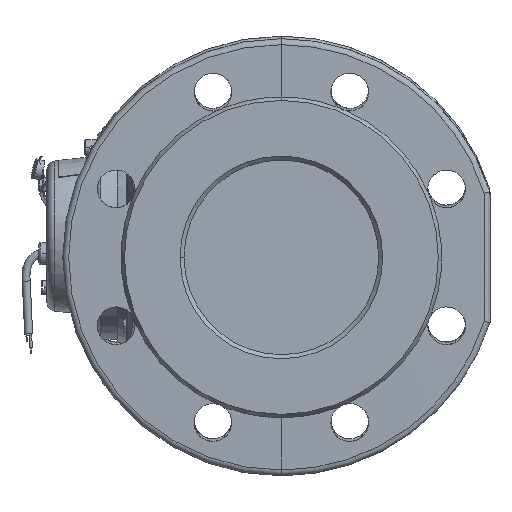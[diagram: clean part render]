
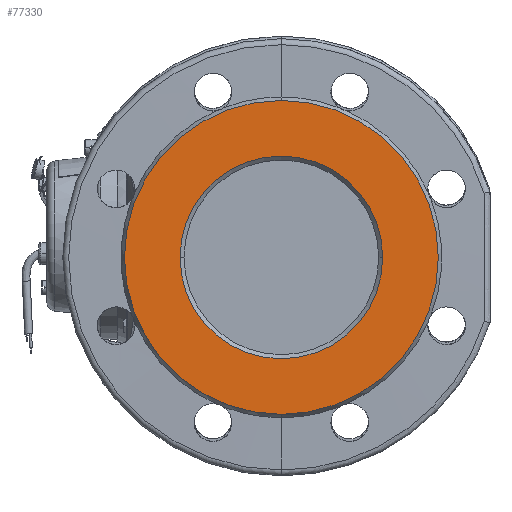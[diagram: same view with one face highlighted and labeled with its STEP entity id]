
A CAD part, left-side view. The second image highlights one B-rep face of the part: STEP entity #77330.
In plain terms, the highlighted planar face has unit normal (-1, 0, -0.006).
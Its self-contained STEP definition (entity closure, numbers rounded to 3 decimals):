
#2461 = AXIS2_PLACEMENT_3D ( 'NONE', #52791, #17997, #32042 ) ;
#5824 = CARTESIAN_POINT ( 'NONE',  ( 37.832, 98.683, 75.969 ) ) ;
#9016 = VERTEX_POINT ( 'NONE', #69503 ) ;
#13227 = AXIS2_PLACEMENT_3D ( 'NONE', #32094, #85331, #59575 ) ;
#16811 = DIRECTION ( 'NONE',  ( 0.006, 0., -1. ) ) ;
#17217 = CARTESIAN_POINT ( 'NONE',  ( 38.275, 47.683, -3.03 ) ) ;
#17493 = EDGE_CURVE ( 'NONE', #65840, #9016, #65825, .T. ) ;
#17691 = PLANE ( 'NONE',  #55491 ) ;
#17997 = DIRECTION ( 'NONE',  ( 1., 0., 0.006 ) ) ;
#18929 = AXIS2_PLACEMENT_3D ( 'NONE', #40742, #63215, #35293 ) ;
#19612 = VERTEX_POINT ( 'NONE', #5824 ) ;
#20807 = DIRECTION ( 'NONE',  ( 0.006, 0., -1. ) ) ;
#23790 = ORIENTED_EDGE ( 'NONE', *, *, #26450, .F. ) ;
#23867 = CARTESIAN_POINT ( 'NONE',  ( 38.718, 98.683, -82.028 ) ) ;
#24087 = ORIENTED_EDGE ( 'NONE', *, *, #17493, .T. ) ;
#26450 = EDGE_CURVE ( 'NONE', #83455, #19612, #42615, .T. ) ;
#28088 = DIRECTION ( 'NONE',  ( 1., 0., 0.006 ) ) ;
#30586 = CIRCLE ( 'NONE', #13227, 79. ) ;
#31306 = DIRECTION ( 'NONE',  ( 1., 0., 0.006 ) ) ;
#32042 = DIRECTION ( 'NONE',  ( 0., 1., 0. ) ) ;
#32094 = CARTESIAN_POINT ( 'NONE',  ( 38.275, 98.683, -3.03 ) ) ;
#35293 = DIRECTION ( 'NONE',  ( 0., 1., 0. ) ) ;
#40742 = CARTESIAN_POINT ( 'NONE',  ( 38.275, 98.683, -3.03 ) ) ;
#40965 = ORIENTED_EDGE ( 'NONE', *, *, #83294, .F. ) ;
#42615 = CIRCLE ( 'NONE', #68518, 79. ) ;
#44716 = ORIENTED_EDGE ( 'NONE', *, *, #55738, .T. ) ;
#52791 = CARTESIAN_POINT ( 'NONE',  ( 38.275, 98.683, -3.03 ) ) ;
#55491 = AXIS2_PLACEMENT_3D ( 'NONE', #71910, #31306, #16811 ) ;
#55738 = EDGE_CURVE ( 'NONE', #9016, #65840, #63574, .T. ) ;
#55916 = EDGE_LOOP ( 'NONE', ( #23790, #40965 ) ) ;
#59575 = DIRECTION ( 'NONE',  ( 0.006, 0., -1. ) ) ;
#63215 = DIRECTION ( 'NONE',  ( 1., 0., 0.006 ) ) ;
#63574 = CIRCLE ( 'NONE', #18929, 51. ) ;
#64195 = FACE_OUTER_BOUND ( 'NONE', #55916, .T. ) ;
#65825 = CIRCLE ( 'NONE', #2461, 51. ) ;
#65840 = VERTEX_POINT ( 'NONE', #17217 ) ;
#66942 = EDGE_LOOP ( 'NONE', ( #24087, #44716 ) ) ;
#68518 = AXIS2_PLACEMENT_3D ( 'NONE', #68657, #28088, #20807 ) ;
#68657 = CARTESIAN_POINT ( 'NONE',  ( 38.275, 98.683, -3.03 ) ) ;
#69503 = CARTESIAN_POINT ( 'NONE',  ( 38.275, 149.683, -3.03 ) ) ;
#71910 = CARTESIAN_POINT ( 'NONE',  ( 37.832, 98.683, 75.969 ) ) ;
#72370 = FACE_BOUND ( 'NONE', #66942, .T. ) ;
#77330 = ADVANCED_FACE ( 'NONE', ( #72370, #64195 ), #17691, .F. ) ;
#83294 = EDGE_CURVE ( 'NONE', #19612, #83455, #30586, .T. ) ;
#83455 = VERTEX_POINT ( 'NONE', #23867 ) ;
#85331 = DIRECTION ( 'NONE',  ( 1., 0., 0.006 ) ) ;
